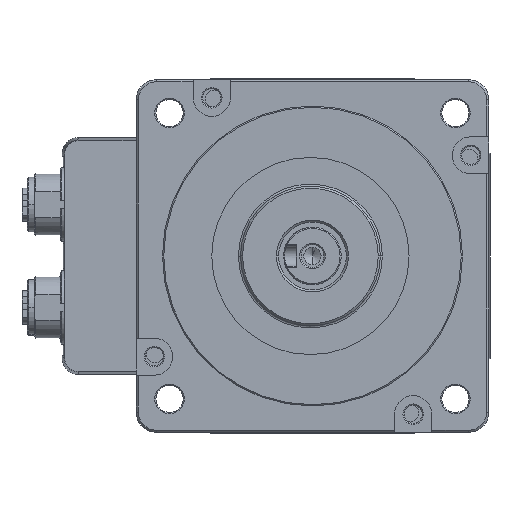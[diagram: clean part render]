
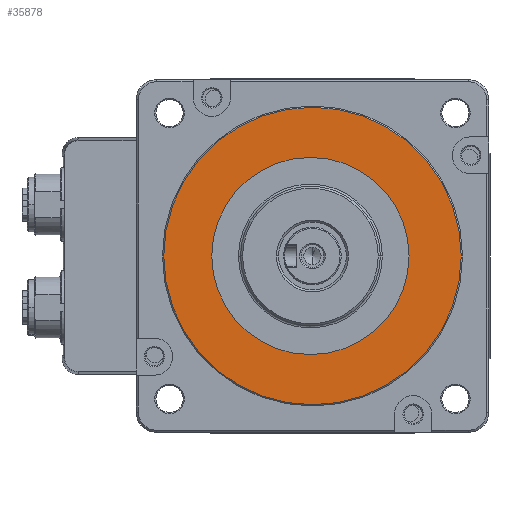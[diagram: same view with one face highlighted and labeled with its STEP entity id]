
A CAD part, left-side view. The second image highlights one B-rep face of the part: STEP entity #35878.
In plain terms, the highlighted planar face has unit normal (-1, 0, 0) as drawn and (0, -1, 0) by its records, which use the part's own axes.
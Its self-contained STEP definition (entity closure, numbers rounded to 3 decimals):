
#33132=CARTESIAN_POINT('',(46.966,-2.,63.564));
#33133=DIRECTION('',(0.,1.,0.));
#33134=DIRECTION('',(1.,0.,0.));
#33135=AXIS2_PLACEMENT_3D('',#33132,#33133,#33134);
#33140=CARTESIAN_POINT('',(46.966,-2.,63.564));
#33141=DIRECTION('',(0.,1.,0.));
#33142=DIRECTION('',(0.,0.,1.));
#33143=AXIS2_PLACEMENT_3D('',#33140,#33141,#33142);
#33148=CARTESIAN_POINT('',(46.966,-2.,63.564));
#33149=DIRECTION('',(0.,1.,0.));
#33150=DIRECTION('',(-1.,0.,0.));
#33151=AXIS2_PLACEMENT_3D('',#33148,#33149,#33150);
#33156=CARTESIAN_POINT('',(46.966,-2.,63.564));
#33157=DIRECTION('',(0.,1.,0.));
#33158=DIRECTION('',(0.,0.,-1.));
#33159=AXIS2_PLACEMENT_3D('',#33156,#33157,#33158);
#33164=CARTESIAN_POINT('',(46.966,-2.,64.064));
#33165=DIRECTION('',(0.,-1.,0.));
#33166=DIRECTION('',(0.,0.,1.));
#33167=AXIS2_PLACEMENT_3D('',#33164,#33165,#33166);
#33172=CARTESIAN_POINT('',(46.966,-2.,64.064));
#33173=DIRECTION('',(0.,-1.,0.));
#33174=DIRECTION('',(0.,0.,-1.));
#33175=AXIS2_PLACEMENT_3D('',#33172,#33173,#33174);
#35259=CARTESIAN_POINT('',(46.966,-2.,87.564));
#35261=VERTEX_POINT('',#35259);
#35263=CARTESIAN_POINT('',(46.966,-2.,39.564));
#35265=VERTEX_POINT('',#35263);
#35267=CARTESIAN_POINT('',(22.966,-2.,63.564));
#35268=VERTEX_POINT('',#35267);
#35269=CARTESIAN_POINT('',(70.966,-2.,63.564));
#35270=VERTEX_POINT('',#35269);
#35353=CARTESIAN_POINT('',(46.966,-2.,100.264));
#35354=CARTESIAN_POINT('',(46.966,-2.,27.864));
#35355=VERTEX_POINT('',#35353);
#35356=VERTEX_POINT('',#35354);
#35858=CARTESIAN_POINT('',(46.966,-2.,64.064));
#35859=DIRECTION('',(0.,1.,0.));
#35860=DIRECTION('',(0.,0.,1.));
#35861=AXIS2_PLACEMENT_3D('',#35858,#35859,#35860);
#35862=PLANE('',#35861);
#35863=ORIENTED_EDGE('',*,*,#35836,.F.);
#35865=ORIENTED_EDGE('',*,*,#35864,.F.);
#35866=EDGE_LOOP('',(#35863,#35865));
#35867=FACE_OUTER_BOUND('',#35866,.F.);
#35869=ORIENTED_EDGE('',*,*,#35868,.F.);
#35871=ORIENTED_EDGE('',*,*,#35870,.F.);
#35873=ORIENTED_EDGE('',*,*,#35872,.F.);
#35875=ORIENTED_EDGE('',*,*,#35874,.F.);
#35876=EDGE_LOOP('',(#35869,#35871,#35873,#35875));
#35877=FACE_BOUND('',#35876,.F.);
#33136=CIRCLE('',#33135,24.);
#33144=CIRCLE('',#33143,24.);
#33152=CIRCLE('',#33151,24.);
#33160=CIRCLE('',#33159,24.);
#33168=CIRCLE('',#33167,36.2);
#33176=CIRCLE('',#33175,36.2);
#35836=EDGE_CURVE('',#35355,#35356,#33168,.T.);
#35864=EDGE_CURVE('',#35356,#35355,#33176,.T.);
#35868=EDGE_CURVE('',#35270,#35265,#33136,.T.);
#35870=EDGE_CURVE('',#35261,#35270,#33144,.T.);
#35872=EDGE_CURVE('',#35268,#35261,#33152,.T.);
#35874=EDGE_CURVE('',#35265,#35268,#33160,.T.);
#35878=ADVANCED_FACE('',(#35867,#35877),#35862,.F.);
